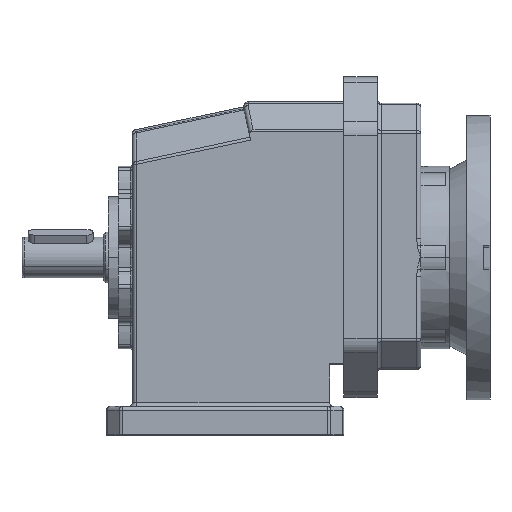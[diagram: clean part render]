
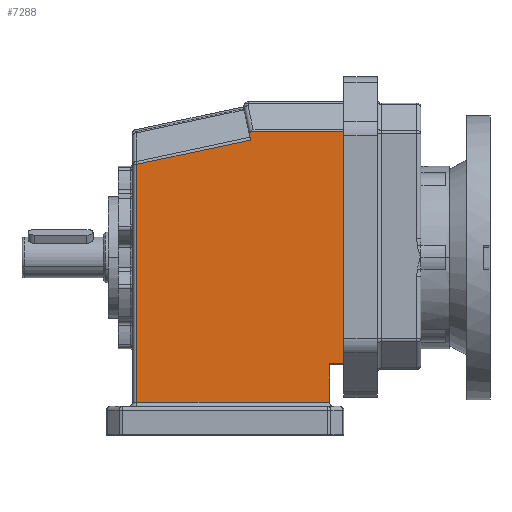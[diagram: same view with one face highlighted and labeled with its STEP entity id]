
A CAD part, top view. The second image highlights one B-rep face of the part: STEP entity #7288.
In plain terms, the highlighted planar face has unit normal (0, 0, 1).
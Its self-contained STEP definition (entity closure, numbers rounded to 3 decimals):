
#177 = ORIENTED_EDGE ( 'NONE', *, *, #3790, .T. ) ;
#234 = DIRECTION ( 'NONE',  ( 0., -1., 0. ) ) ;
#347 = ORIENTED_EDGE ( 'NONE', *, *, #10537, .T. ) ;
#850 = VECTOR ( 'NONE', #7815, 1000. ) ;
#1353 = CARTESIAN_POINT ( 'NONE',  ( 15., 14., 45. ) ) ;
#1438 = LINE ( 'NONE', #5567, #13113 ) ;
#1575 = CARTESIAN_POINT ( 'NONE',  ( 70.654, 148.526, 45. ) ) ;
#1600 = CARTESIAN_POINT ( 'NONE',  ( 15., 16., 45. ) ) ;
#1665 = CARTESIAN_POINT ( 'NONE',  ( 117., 149.172, 45. ) ) ;
#1800 = CARTESIAN_POINT ( 'NONE',  ( 110., 16., 45. ) ) ;
#2942 = EDGE_CURVE ( 'NONE', #6113, #13235, #6489, .T. ) ;
#2990 = ORIENTED_EDGE ( 'NONE', *, *, #7264, .F. ) ;
#3023 = VECTOR ( 'NONE', #13831, 1000. ) ;
#3700 = EDGE_CURVE ( 'NONE', #11671, #5260, #9949, .T. ) ;
#3744 = CARTESIAN_POINT ( 'NONE',  ( 110., 35., 45. ) ) ;
#3790 = EDGE_CURVE ( 'NONE', #13235, #11671, #11931, .T. ) ;
#3832 = CARTESIAN_POINT ( 'NONE',  ( 71.047, 149.172, 45. ) ) ;
#4130 = EDGE_LOOP ( 'NONE', ( #5597, #347, #7274, #10038, #2990, #13311, #9543, #177, #8454 ) ) ;
#4305 = VECTOR ( 'NONE', #12914, 1000. ) ;
#4896 = CARTESIAN_POINT ( 'NONE',  ( 70.734, 146.755, 45. ) ) ;
#4906 = EDGE_CURVE ( 'NONE', #8549, #6113, #6240, .T. ) ;
#5006 = CARTESIAN_POINT ( 'NONE',  ( 13.173, 132.853, 45. ) ) ;
#5260 = VERTEX_POINT ( 'NONE', #9944 ) ;
#5320 = LINE ( 'NONE', #1353, #13984 ) ;
#5567 = CARTESIAN_POINT ( 'NONE',  ( 117., 35., 45. ) ) ;
#5597 = ORIENTED_EDGE ( 'NONE', *, *, #6262, .T. ) ;
#5673 = CARTESIAN_POINT ( 'NONE',  ( 117., 164., 45. ) ) ;
#5719 = DIRECTION ( 'NONE',  ( -1., 0., 0. ) ) ;
#5728 = CARTESIAN_POINT ( 'NONE',  ( 0., 149.172, 45. ) ) ;
#5875 = VECTOR ( 'NONE', #12498, 1000. ) ;
#6030 = LINE ( 'NONE', #7043, #3023 ) ;
#6113 = VERTEX_POINT ( 'NONE', #7888 ) ;
#6117 = CARTESIAN_POINT ( 'NONE',  ( 70.542, 147.658, 45. ) ) ;
#6240 = LINE ( 'NONE', #5728, #5875 ) ;
#6262 = EDGE_CURVE ( 'NONE', #5260, #13260, #5320, .T. ) ;
#6489 =( BOUNDED_CURVE ( )  B_SPLINE_CURVE ( 3, ( #3832, #1575, #6117, #7243 ),
 .UNSPECIFIED., .F., .F. ) 
 B_SPLINE_CURVE_WITH_KNOTS ( ( 4, 4 ),
 ( 0.638, 1.571 ),
 .UNSPECIFIED. ) 
 CURVE ( )  GEOMETRIC_REPRESENTATION_ITEM ( )  RATIONAL_B_SPLINE_CURVE ( ( 1., 0.929, 0.929, 1. ) ) 
 REPRESENTATION_ITEM ( '' )  );
#6808 = LINE ( 'NONE', #5673, #850 ) ;
#7043 = CARTESIAN_POINT ( 'NONE',  ( 110., 16., 45. ) ) ;
#7243 = CARTESIAN_POINT ( 'NONE',  ( 70.734, 146.755, 45. ) ) ;
#7264 = EDGE_CURVE ( 'NONE', #8549, #13432, #6808, .T. ) ;
#7274 = ORIENTED_EDGE ( 'NONE', *, *, #9147, .T. ) ;
#7288 = ADVANCED_FACE ( 'NONE', ( #12475 ), #9053, .F. ) ;
#7297 = AXIS2_PLACEMENT_3D ( 'NONE', #10132, #12487, #5719 ) ;
#7596 = CARTESIAN_POINT ( 'NONE',  ( 117., 35., 45. ) ) ;
#7815 = DIRECTION ( 'NONE',  ( 0., -1., 0. ) ) ;
#7888 = CARTESIAN_POINT ( 'NONE',  ( 71.047, 149.172, 45. ) ) ;
#8454 = ORIENTED_EDGE ( 'NONE', *, *, #3700, .T. ) ;
#8549 = VERTEX_POINT ( 'NONE', #1665 ) ;
#8725 = VECTOR ( 'NONE', #14142, 1000. ) ;
#9053 = PLANE ( 'NONE',  #7297 ) ;
#9147 = EDGE_CURVE ( 'NONE', #9815, #10140, #11753, .T. ) ;
#9543 = ORIENTED_EDGE ( 'NONE', *, *, #2942, .T. ) ;
#9581 = CARTESIAN_POINT ( 'NONE',  ( 110., 14., 45. ) ) ;
#9815 = VERTEX_POINT ( 'NONE', #1800 ) ;
#9944 = CARTESIAN_POINT ( 'NONE',  ( 15., 133.243, 45. ) ) ;
#9949 = LINE ( 'NONE', #5006, #4305 ) ;
#10038 = ORIENTED_EDGE ( 'NONE', *, *, #10445, .F. ) ;
#10052 = CARTESIAN_POINT ( 'NONE',  ( 67.772, 160.664, 45. ) ) ;
#10132 = CARTESIAN_POINT ( 'NONE',  ( 0., 0., 45. ) ) ;
#10140 = VERTEX_POINT ( 'NONE', #3744 ) ;
#10445 = EDGE_CURVE ( 'NONE', #13432, #10140, #1438, .T. ) ;
#10537 = EDGE_CURVE ( 'NONE', #13260, #9815, #6030, .T. ) ;
#11201 = DIRECTION ( 'NONE',  ( 0.208, -0.978, 0. ) ) ;
#11671 = VERTEX_POINT ( 'NONE', #11732 ) ;
#11732 = CARTESIAN_POINT ( 'NONE',  ( 71.069, 145.183, 45. ) ) ;
#11753 = LINE ( 'NONE', #9581, #8725 ) ;
#11931 = LINE ( 'NONE', #10052, #14219 ) ;
#12475 = FACE_OUTER_BOUND ( 'NONE', #4130, .T. ) ;
#12487 = DIRECTION ( 'NONE',  ( 0., 0., -1. ) ) ;
#12498 = DIRECTION ( 'NONE',  ( -1., 0., 0. ) ) ;
#12914 = DIRECTION ( 'NONE',  ( -0.978, -0.208, 0. ) ) ;
#13113 = VECTOR ( 'NONE', #13487, 1000. ) ;
#13235 = VERTEX_POINT ( 'NONE', #4896 ) ;
#13260 = VERTEX_POINT ( 'NONE', #1600 ) ;
#13311 = ORIENTED_EDGE ( 'NONE', *, *, #4906, .T. ) ;
#13432 = VERTEX_POINT ( 'NONE', #7596 ) ;
#13487 = DIRECTION ( 'NONE',  ( -1., 0., 0. ) ) ;
#13831 = DIRECTION ( 'NONE',  ( 1., 0., 0. ) ) ;
#13984 = VECTOR ( 'NONE', #234, 1000. ) ;
#14142 = DIRECTION ( 'NONE',  ( 0., 1., 0. ) ) ;
#14219 = VECTOR ( 'NONE', #11201, 1000. ) ;
